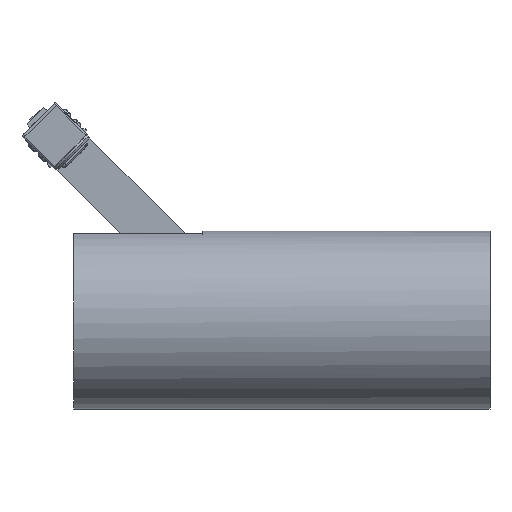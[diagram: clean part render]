
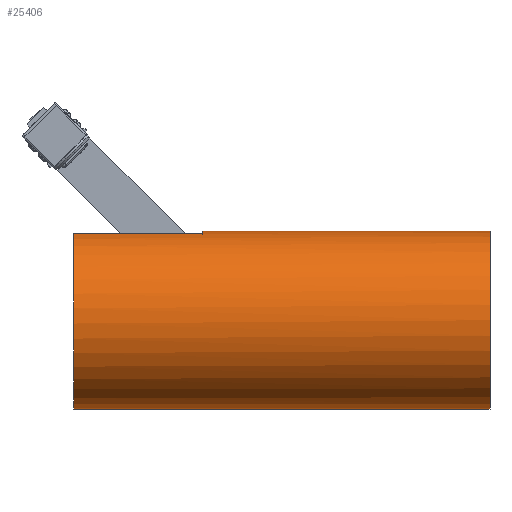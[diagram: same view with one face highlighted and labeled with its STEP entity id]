
A CAD part, left-side view. The second image highlights one B-rep face of the part: STEP entity #25406.
In plain terms, the highlighted cylindrical face has radius 31 mm (diameter 62 mm), a partial arc.
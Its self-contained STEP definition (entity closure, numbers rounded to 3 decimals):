
#1159 = EDGE_CURVE ( 'NONE', #24630, #29052, #44074, .T. ) ;
#1563 = DIRECTION ( 'NONE',  ( 0., -1., 0. ) ) ;
#2819 = CARTESIAN_POINT ( 'NONE',  ( 0., -49.416, 0. ) ) ;
#4165 = CIRCLE ( 'NONE', #35482, 31. ) ;
#4184 = EDGE_CURVE ( 'NONE', #33528, #46851, #45697, .T. ) ;
#6565 = CARTESIAN_POINT ( 'NONE',  ( -7.5, 50.584, 30.079 ) ) ;
#7400 = CARTESIAN_POINT ( 'NONE',  ( 0., -56.666, 31. ) ) ;
#8950 = DIRECTION ( 'NONE',  ( 0., 1., 0. ) ) ;
#9721 = LINE ( 'NONE', #26807, #25846 ) ;
#9984 = EDGE_CURVE ( 'NONE', #46851, #20413, #17782, .T. ) ;
#10886 = DIRECTION ( 'NONE',  ( 0., 0., 1. ) ) ;
#12705 = CARTESIAN_POINT ( 'NONE',  ( 0., -49.416, 31. ) ) ;
#13155 = FACE_OUTER_BOUND ( 'NONE', #36610, .T. ) ;
#13551 = ORIENTED_EDGE ( 'NONE', *, *, #17369, .T. ) ;
#15445 = ORIENTED_EDGE ( 'NONE', *, *, #1159, .T. ) ;
#15564 = CARTESIAN_POINT ( 'NONE',  ( 0., 50.584, 31. ) ) ;
#16825 = CARTESIAN_POINT ( 'NONE',  ( -7.5, -56.666, 30.079 ) ) ;
#16904 = AXIS2_PLACEMENT_3D ( 'NONE', #39899, #1563, #18669 ) ;
#17369 = EDGE_CURVE ( 'NONE', #20413, #24630, #42221, .T. ) ;
#17478 = CARTESIAN_POINT ( 'NONE',  ( -7.5, 95.584, 30.079 ) ) ;
#17782 = CIRCLE ( 'NONE', #16904, 31. ) ;
#18669 = DIRECTION ( 'NONE',  ( 0., 0., 1. ) ) ;
#19930 = DIRECTION ( 'NONE',  ( 0., 1., 0. ) ) ;
#20413 = VERTEX_POINT ( 'NONE', #6565 ) ;
#20936 = VECTOR ( 'NONE', #24493, 1000. ) ;
#22100 = ORIENTED_EDGE ( 'NONE', *, *, #45646, .F. ) ;
#24493 = DIRECTION ( 'NONE',  ( 0., 1., 0. ) ) ;
#24630 = VERTEX_POINT ( 'NONE', #17478 ) ;
#25406 = ADVANCED_FACE ( 'NONE', ( #13155 ), #30240, .T. ) ;
#25846 = VECTOR ( 'NONE', #43800, 1000. ) ;
#25987 = VECTOR ( 'NONE', #33892, 1000. ) ;
#26044 = DIRECTION ( 'NONE',  ( 0., 0., 1. ) ) ;
#26807 = CARTESIAN_POINT ( 'NONE',  ( 0., -56.666, -31. ) ) ;
#28101 = ORIENTED_EDGE ( 'NONE', *, *, #52998, .T. ) ;
#29052 = VERTEX_POINT ( 'NONE', #40884 ) ;
#30240 = CYLINDRICAL_SURFACE ( 'NONE', #32011, 31. ) ;
#30854 = CARTESIAN_POINT ( 'NONE',  ( 0., -49.416, -31. ) ) ;
#32011 = AXIS2_PLACEMENT_3D ( 'NONE', #47224, #8950, #26044 ) ;
#32160 = CARTESIAN_POINT ( 'NONE',  ( 0., 95.584, 0. ) ) ;
#33528 = VERTEX_POINT ( 'NONE', #12705 ) ;
#33892 = DIRECTION ( 'NONE',  ( 0., 1., 0. ) ) ;
#35482 = AXIS2_PLACEMENT_3D ( 'NONE', #2819, #19930, #36987 ) ;
#36610 = EDGE_LOOP ( 'NONE', ( #22100, #28101, #39113, #53880, #13551, #15445 ) ) ;
#36987 = DIRECTION ( 'NONE',  ( 0., 0., 1. ) ) ;
#39113 = ORIENTED_EDGE ( 'NONE', *, *, #4184, .T. ) ;
#39899 = CARTESIAN_POINT ( 'NONE',  ( 0., 50.584, 0. ) ) ;
#40884 = CARTESIAN_POINT ( 'NONE',  ( 0., 95.584, -31. ) ) ;
#42221 = LINE ( 'NONE', #16825, #25987 ) ;
#43800 = DIRECTION ( 'NONE',  ( 0., 1., 0. ) ) ;
#44042 = AXIS2_PLACEMENT_3D ( 'NONE', #32160, #49123, #10886 ) ;
#44074 = CIRCLE ( 'NONE', #44042, 31. ) ;
#45646 = EDGE_CURVE ( 'NONE', #51854, #29052, #9721, .T. ) ;
#45697 = LINE ( 'NONE', #7400, #20936 ) ;
#46851 = VERTEX_POINT ( 'NONE', #15564 ) ;
#47224 = CARTESIAN_POINT ( 'NONE',  ( 0., -56.666, 0. ) ) ;
#49123 = DIRECTION ( 'NONE',  ( 0., -1., 0. ) ) ;
#51854 = VERTEX_POINT ( 'NONE', #30854 ) ;
#52998 = EDGE_CURVE ( 'NONE', #51854, #33528, #4165, .T. ) ;
#53880 = ORIENTED_EDGE ( 'NONE', *, *, #9984, .T. ) ;
